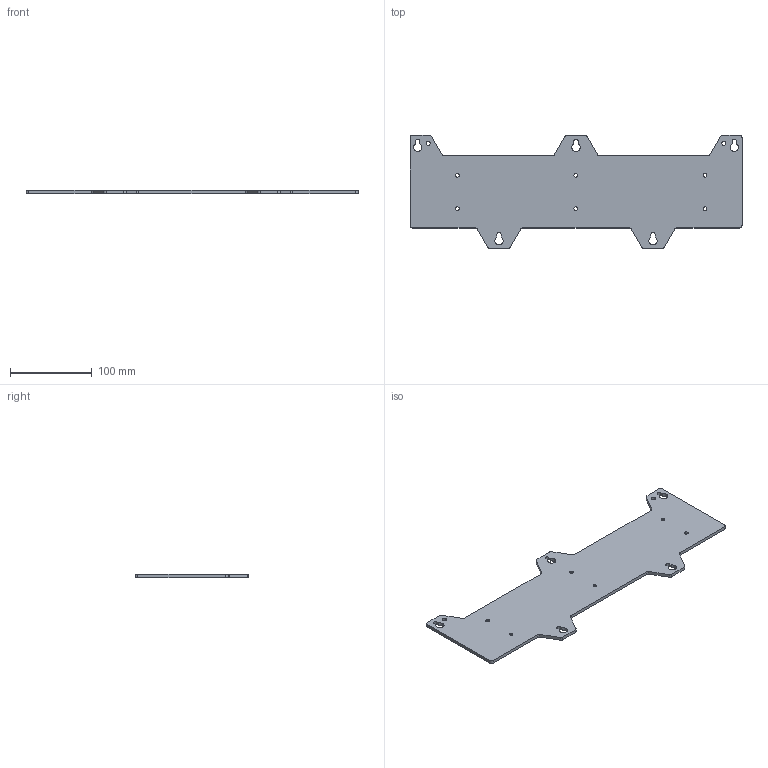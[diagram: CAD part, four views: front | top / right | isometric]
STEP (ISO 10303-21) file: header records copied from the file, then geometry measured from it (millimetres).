
FILE_DESCRIPTION((''),'2;1');
FILE_NAME('CU_PANEL_MOUNT_CRIO_908X','2014-05-16T',('jbuhisan'),(''),'PRO/ENGINEER BY PARAMETRIC TECHNOLOGY CORPORATION, 2011490','PRO/ENGINEER BY PARAMETRIC TECHNOLOGY CORPORATION, 2011490','');
FILE_SCHEMA(('CONFIG_CONTROL_DESIGN'));
Length unit declared in the file: inch
Products named in the file (1): CU_PANEL_MOUNT_CRIO_908X
Bounding box: 406.4 x 138.94 x 4 mm (x, y, z)
Volume: 159180.1 mm3; surface area: 85533.3 mm2
Topology: 1 solids, 1 shells, 90 faces, 252 edges, 164 vertices
Faces by surface type: cylinder 46, plane 32, cone 12
Entity records: 3016 total; most frequent: DIRECTION 536, CARTESIAN_POINT 506, ORIENTED_EDGE 504, EDGE_CURVE 252, AXIS2_PLACEMENT_3D 194, VERTEX_POINT 164, VECTOR 148, LINE 148
